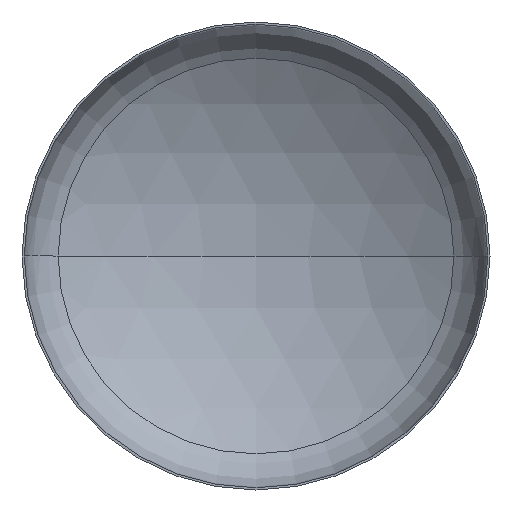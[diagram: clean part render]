
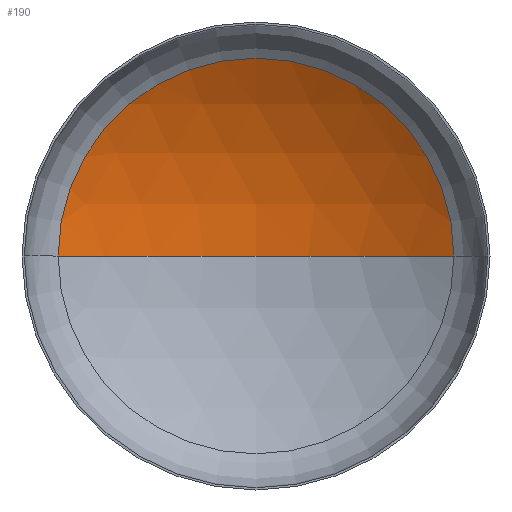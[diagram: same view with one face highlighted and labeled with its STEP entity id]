
A CAD part, front view. The second image highlights one B-rep face of the part: STEP entity #190.
In plain terms, the highlighted spherical face has radius 3200 mm.
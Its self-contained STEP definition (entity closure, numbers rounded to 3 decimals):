
#1 = EDGE_LOOP ( 'NONE', ( #85, #44, #73 ) ) ;
#23 = VERTEX_POINT ( 'NONE', #379 ) ;
#32 = VERTEX_POINT ( 'NONE', #266 ) ;
#38 = VERTEX_POINT ( 'NONE', #278 ) ;
#44 = ORIENTED_EDGE ( 'NONE', *, *, #218, .T. ) ;
#65 = AXIS2_PLACEMENT_3D ( 'NONE', #156, #130, #198 ) ;
#73 = ORIENTED_EDGE ( 'NONE', *, *, #215, .T. ) ;
#85 = ORIENTED_EDGE ( 'NONE', *, *, #365, .F. ) ;
#117 = CIRCLE ( 'NONE', #65, 3200. ) ;
#126 = AXIS2_PLACEMENT_3D ( 'NONE', #287, #260, #256 ) ;
#129 = AXIS2_PLACEMENT_3D ( 'NONE', #274, #272, #270 ) ;
#130 = DIRECTION ( 'NONE',  ( 0., 0., 1. ) ) ;
#141 = CIRCLE ( 'NONE', #126, 3200. ) ;
#152 = AXIS2_PLACEMENT_3D ( 'NONE', #217, #356, #317 ) ;
#156 = CARTESIAN_POINT ( 'NONE',  ( 0., -2134.6, 0. ) ) ;
#190 = ADVANCED_FACE ( 'NONE', ( #301 ), #411, .F. ) ;
#198 = DIRECTION ( 'NONE',  ( 1., 0., 0. ) ) ;
#215 = EDGE_CURVE ( 'NONE', #23, #38, #286, .T. ) ;
#217 = CARTESIAN_POINT ( 'NONE',  ( 0., -2134.6, 0. ) ) ;
#218 = EDGE_CURVE ( 'NONE', #32, #23, #141, .T. ) ;
#256 = DIRECTION ( 'NONE',  ( -1., 0., 0. ) ) ;
#260 = DIRECTION ( 'NONE',  ( 0., 0., -1. ) ) ;
#266 = CARTESIAN_POINT ( 'NONE',  ( 0., 1065.4, 0. ) ) ;
#270 = DIRECTION ( 'NONE',  ( 1., 0., 0. ) ) ;
#272 = DIRECTION ( 'NONE',  ( 0., -1., 0. ) ) ;
#274 = CARTESIAN_POINT ( 'NONE',  ( 0., 582.12, 0. ) ) ;
#278 = CARTESIAN_POINT ( 'NONE',  ( -1690.986, 582.12, 0. ) ) ;
#286 = CIRCLE ( 'NONE', #129, 1690.986 ) ;
#287 = CARTESIAN_POINT ( 'NONE',  ( 0., -2134.6, 0. ) ) ;
#301 = FACE_OUTER_BOUND ( 'NONE', #1, .T. ) ;
#317 = DIRECTION ( 'NONE',  ( -1., 0., 0. ) ) ;
#356 = DIRECTION ( 'NONE',  ( 0., 0., -1. ) ) ;
#365 = EDGE_CURVE ( 'NONE', #32, #38, #117, .T. ) ;
#379 = CARTESIAN_POINT ( 'NONE',  ( 1690.986, 582.12, 0. ) ) ;
#411 = SPHERICAL_SURFACE ( 'NONE', #152, 3200. ) ;
